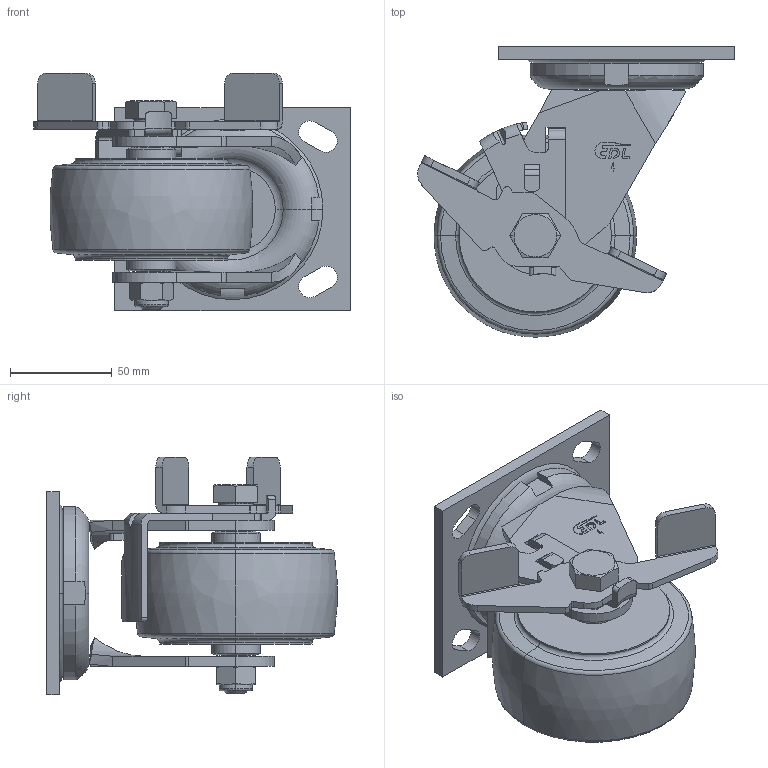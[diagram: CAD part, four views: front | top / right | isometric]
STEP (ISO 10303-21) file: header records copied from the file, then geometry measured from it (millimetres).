
FILE_DESCRIPTION((''),'2;1');
FILE_NAME('73124C-734-86_ASM','2020-12-01T',('lenovo'),(''),'PRO/ENGINEER BY PARAMETRIC TECHNOLOGY CORPORATION, 2010280','PRO/ENGINEER BY PARAMETRIC TECHNOLOGY CORPORATION, 2010280','');
FILE_SCHEMA(('CONFIG_CONTROL_DESIGN'));
Length unit declared in the file: millimetre
Products named in the file (10): 7310-201; 7310-211; 7314-353; 7314-311_ASM; 734-86; 700C-33; 7010-34; 704-15; 700-14; 73124C-734-86_ASM
Assembly tree (9 placements, depth 3):
  73124C-734-86_ASM
    7310-201
    7314-311_ASM
      7310-211
      7314-353
    734-86
    700C-33
    7010-34
    704-15
    700-14
Bounding box: 155.96 x 142.83 x 117 mm (x, y, z)
Volume: 581632.6 mm3; surface area: 118401 mm2
Topology: 9 solids, 9 shells, 520 faces, 1338 edges, 858 vertices
Faces by surface type: plane 307, cylinder 122, torus 59, cone 22, bspline 10
Entity records: 16633 total; most frequent: CARTESIAN_POINT 3591, DIRECTION 2676, ORIENTED_EDGE 2676, EDGE_CURVE 1338, VECTOR 898, LINE 898, AXIS2_PLACEMENT_3D 889, VERTEX_POINT 858
